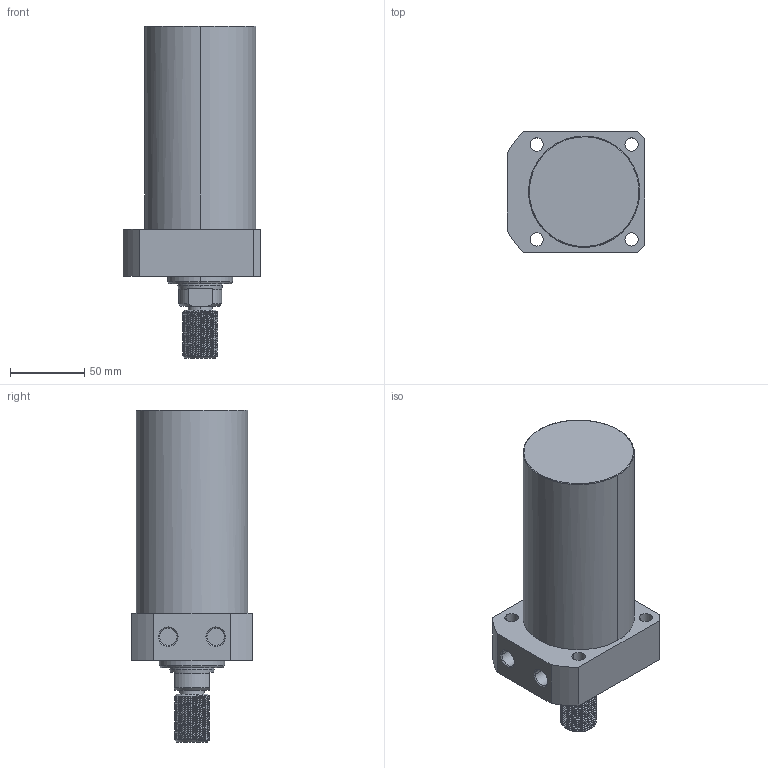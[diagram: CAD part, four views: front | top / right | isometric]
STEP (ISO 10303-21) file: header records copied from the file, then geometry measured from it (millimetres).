
FILE_DESCRIPTION((' '),'2;1');
FILE_NAME( 'TLLR-075CT-100.STEP.stp', '2025-10-24T16:35:11', (' '), ('--- Datakit www.datakit.com---'), ' Datakit CrossCadWare V2024.1 Dec 21 2023', 'Mastercam 2025', ' ');
FILE_SCHEMA(('AUTOMOTIVE_DESIGN { 1 0 10303 214 1 1 1 1 }'));
Length unit declared in the file: millimetre
Products named in the file (1): TLLR-075CT-100
Bounding box: 93 x 82 x 224 mm (x, y, z)
Volume: 862245 mm3; surface area: 68372.8 mm2
Topology: 1 solids, 1 shells, 109 faces, 396 edges, 298 vertices
Faces by surface type: cylinder 69, plane 21, cone 15, bspline 2, torus 2
Entity records: 12939 total; most frequent: CARTESIAN_POINT 9577, ORIENTED_EDGE 792, DIRECTION 545, EDGE_CURVE 396, VERTEX_POINT 298, AXIS2_PLACEMENT_3D 220, B_SPLINE_CURVE_WITH_KNOTS 179, EDGE_LOOP 126
